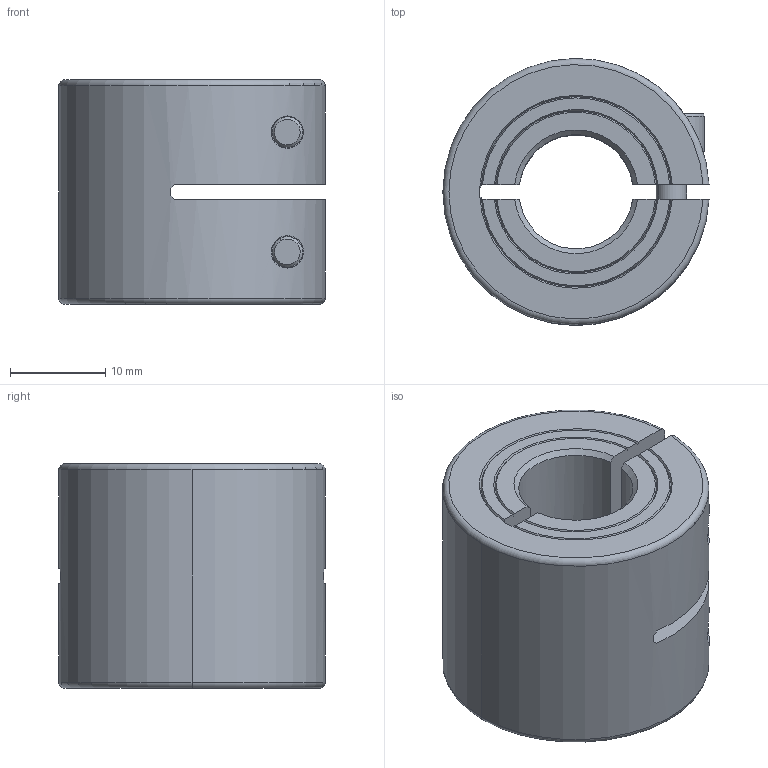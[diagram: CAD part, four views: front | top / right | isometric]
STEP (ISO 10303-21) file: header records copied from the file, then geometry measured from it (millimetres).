
FILE_DESCRIPTION (( 'STEP AP203' ), '1' );
FILE_NAME ('Ruland_MWCL-12-F.step', '2017-08-22T11:19:58', ( '' ), ( '' ), 'SwSTEP 2.0', 'SolidWorks 2017', '' );
FILE_SCHEMA (( 'CONFIG_CONTROL_DESIGN' ));
Length unit declared in the file: metre
Products named in the file (3): MWCL Dbl Wide Collars_MWCL-12; Metric Socket Head Cap Screws 1a_CFM4_12; Ruland_MWCL-12-F
Assembly tree (3 placements, depth 2):
  Ruland_MWCL-12-F
    MWCL Dbl Wide Collars_MWCL-12
    Metric Socket Head Cap Screws 1a_CFM4_12  x2
Bounding box: 27.98 x 27.99 x 23.59 mm (x, y, z)
Volume: 10688.1 mm3; surface area: 5777.6 mm2
Topology: 3 solids, 3 shells, 96 faces, 243 edges, 159 vertices
Faces by surface type: plane 47, cylinder 26, cone 20, torus 3
Entity records: 2986 total; most frequent: CARTESIAN_POINT 718, ORIENTED_EDGE 410, DIRECTION 405, EDGE_CURVE 205, AXIS2_PLACEMENT_3D 150, VERTEX_POINT 135, LINE 105, VECTOR 105
